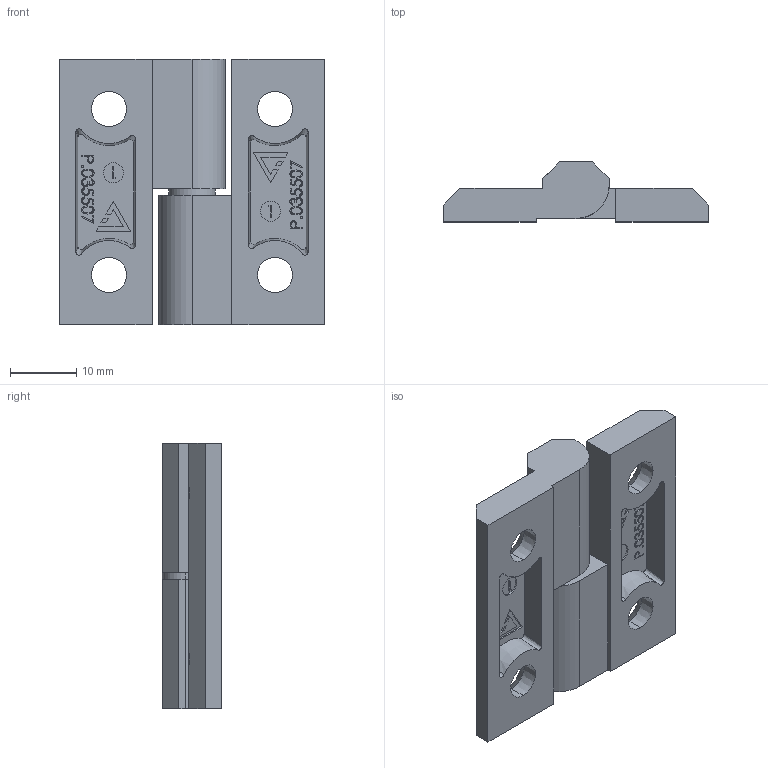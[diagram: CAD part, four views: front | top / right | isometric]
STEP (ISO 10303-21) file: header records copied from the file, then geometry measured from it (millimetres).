
FILE_DESCRIPTION (( 'STEP AP214' ), '1' );
FILE_NAME ('3.ZN60.202.STEP', '2024-01-05T13:48:57', ( '' ), ( '' ), 'SwSTEP 2.0', 'SolidWorks 2021', '' );
FILE_SCHEMA (( 'AUTOMOTIVE_DESIGN' ));
Length unit declared in the file: millimetre
Products named in the file (4): P.035507_00-00; 3.ZN60.202; P.035495_00-00; P.035494_00-00
Assembly tree (4 placements, depth 2):
  3.ZN60.202
    P.035507_00-00  x2
    P.035494_00-00
    P.035495_00-00
Bounding box: 40 x 9 x 40 mm (x, y, z)
Volume: 6684.1 mm3; surface area: 5890 mm2
Topology: 4 solids, 4 shells, 458 faces, 1170 edges, 776 vertices
Faces by surface type: plane 294, bspline 124, cone 24, cylinder 16
Entity records: 12682 total; most frequent: CARTESIAN_POINT 5804, ORIENTED_EDGE 1508, DIRECTION 1104, EDGE_CURVE 754, LINE 524, VECTOR 524, VERTEX_POINT 500, EDGE_LOOP 348
